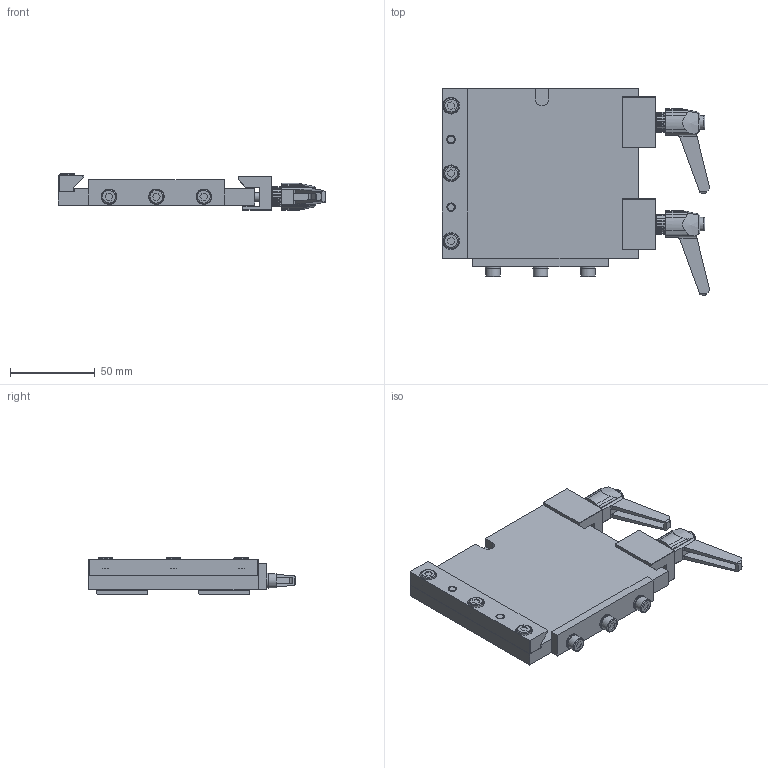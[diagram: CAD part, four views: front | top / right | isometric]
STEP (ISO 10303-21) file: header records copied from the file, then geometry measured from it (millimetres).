
FILE_DESCRIPTION(('STEP AP214'),'1');
FILE_NAME('CA.SWM1.stp','2017-12-05T15:49:08',(' '),(' '),'Spatial InterOp 3D',' ',' ');
FILE_SCHEMA(('AUTOMOTIVE_DESIGN { 1 0 10303 214 1 1 1 1 }'));
Length unit declared in the file: millimetre
Products named in the file (13): R.5.SCH; SWM1.1; MAN.M5x20; SWM1.0; SWM1.2; SWM1.3; V.TCE5x12; SP.5X16; SP.5X28; PAP.050705; M.DIM.11230; V.TCE5x14
Assembly tree (33 placements, depth 2):
  (unnamed)
    R.5.SCH  x6
    SWM1.1  x2
    MAN.M5x20  x2
    SWM1.0
    SWM1.2
    SWM1.3
    V.TCE5x12  x3
    SP.5X16  x2
    SP.5X28  x4
    PAP.050705  x4
    M.DIM.11230  x4
    V.TCE5x14  x3
Bounding box: 158 x 122 x 21.64 mm (x, y, z)
Volume: 156323.2 mm3; surface area: 62752.5 mm2
Topology: 27 solids, 33 shells, 1710 faces, 4859 edges, 3222 vertices
Faces by surface type: plane 1448, cylinder 193, cone 43, torus 22, bspline 4
Full cylindrical faces by diameter (mm): 4.2 x4, 4.5 x6, 4.82 x3, 5 x26, 5.2 x10, 5.3 x6, 5.5 x2, 6.667 x2, 7 x8, 8 x2, 8.5 x6, 8.889 x2, 9 x6, 10 x5, 12 x2
Entity records: 20462 total; most frequent: CARTESIAN_POINT 4280, DIRECTION 2545, ORIENTED_EDGE 2398, EDGE_CURVE 1199, AXIS2_PLACEMENT_3D 919, VERTEX_POINT 844, LINE 707, VECTOR 707
